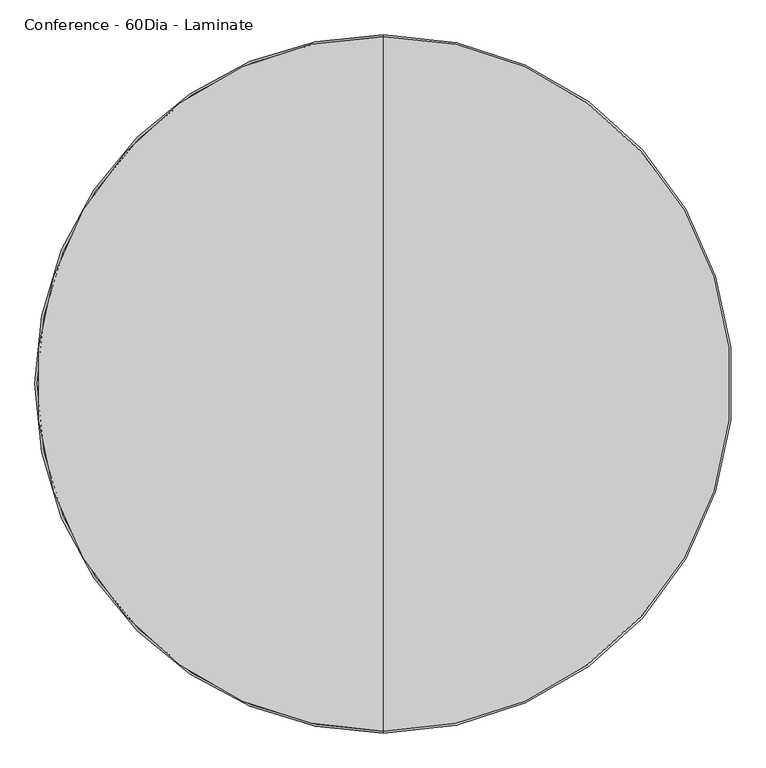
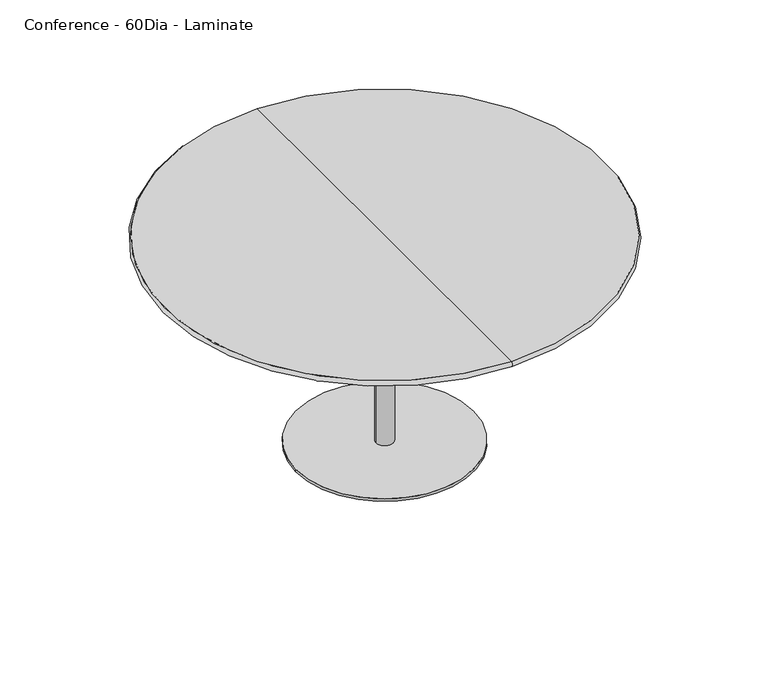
"""IFC4 building model written with IfcOpenShell, lengths in millimetres: furniture geometry, Steelcase Coalesse - Enea - Table - Single Base : Conference - 60Dia - Laminate."""

from ifc_helpers import new_model, si_unit, point, frame, frame_2d, origin, origin_with_axes, place, context, project, spatial, circle_curve, ellipse_curve, trimmed, segment, composite_curve, outline, extrude, source, transform, mapped, element, save
from ifc_brep_helpers import plane_surface, revolved_surface, advanced_brep


def conference_60dia_laminate_2bc6436f(model_context):
    return source(origin(), model_context, "Body", "SolidModel", [
        extrude(outline(composite_curve([segment(trimmed(circle_curve(frame_2d((537.718, -284.0746893)), 25.4), [point((512.318, -284.0746893))], [point((563.118, -284.0746893))], False, "CARTESIAN"), True, "CONTINUOUS"), segment(trimmed(circle_curve(frame_2d((537.718, -284.0746893)), 25.4), [point((563.118, -284.0746893))], [point((512.318, -284.0746893))], False, "CARTESIAN"), True, "CONTINUOUS")], self_intersect=False)), origin_with_axes(), (0.0, 0.0, 1.0), 6.35),
        extrude(outline(composite_curve([segment(trimmed(circle_curve(frame_2d((791.3613107, -537.3772238)), 25.4), [point((765.9613107, -537.3772238))], [point((816.7613107, -537.3772238))], False, "CARTESIAN"), True, "CONTINUOUS"), segment(trimmed(circle_curve(frame_2d((791.3613107, -537.3772238)), 25.4), [point((816.7613107, -537.3772238))], [point((765.9613107, -537.3772238))], False, "CARTESIAN"), True, "CONTINUOUS")], self_intersect=False)), origin_with_axes(), (0.0, 0.0, 1.0), 6.35),
        extrude(outline(composite_curve([segment(trimmed(circle_curve(frame_2d((284.0746893, -537.3772238)), 25.4), [point((258.6746893, -537.3772238))], [point((309.4746893, -537.3772238))], False, "CARTESIAN"), True, "CONTINUOUS"), segment(trimmed(circle_curve(frame_2d((284.0746893, -537.3772238)), 25.4), [point((309.4746893, -537.3772238))], [point((258.6746893, -537.3772238))], False, "CARTESIAN"), True, "CONTINUOUS")], self_intersect=False)), origin_with_axes(), (0.0, 0.0, 1.0), 6.35),
        extrude(outline(composite_curve([segment(trimmed(circle_curve(frame_2d((537.718, -790.6797584)), 25.4), [point((512.318, -790.6797584))], [point((563.118, -790.6797584))], False, "CARTESIAN"), True, "CONTINUOUS"), segment(trimmed(circle_curve(frame_2d((537.718, -790.6797584)), 25.4), [point((563.118, -790.6797584))], [point((512.318, -790.6797584))], False, "CARTESIAN"), True, "CONTINUOUS")], self_intersect=False)), origin_with_axes(), (0.0, 0.0, 1.0), 6.35),
        advanced_brep(
        [(537.718, -1295.4075871, 762.0), (537.718, 219.9715871, 762.0), (537.718, -537.718, 762.0), (537.718, -1295.4075871, 742.95), (537.718, 219.9715871, 742.95), (537.718, -537.718, 742.95)],
        [
            (0, 1, circle_curve(frame((537.718, -537.718, 762.0), z_axis=(0.0, 0.0, 1.0), x_axis=(0.0, 1.0, 0.0)), 757.6895871)),
            (1, 2),
            (2, 0),
            (1, 0, circle_curve(frame((537.718, -537.718, 762.0), z_axis=(0.0, 0.0, 1.0), x_axis=(0.0, 1.0, 0.0)), 757.6895871)),
            (3, 4, circle_curve(frame((537.718, -537.718, 742.95), z_axis=(0.0, 0.0, 1.0), x_axis=(0.0, 1.0, 0.0)), 757.6895871)),
            (4, 1, circle_curve(frame((537.718, 211.6031554, 752.475), z_axis=(1.0, 0.0, 0.0), x_axis=(0.0, -1.0, 0.0)), 12.6789697)),
            (0, 3, circle_curve(frame((537.718, -1287.0391554, 752.475), z_axis=(1.0, 0.0, 0.0), x_axis=(0.0, 1.0, 0.0)), 12.6789697)),
            (4, 3, circle_curve(frame((537.718, -537.718, 742.95), z_axis=(0.0, 0.0, 1.0), x_axis=(0.0, 1.0, 0.0)), 757.6895871)),
            (5, 4),
            (3, 5),
        ],
        [
            plane_surface(frame((537.718, -537.718, 762.0), z_axis=(0.0, 0.0, 1.0), x_axis=(0.0, 1.0, 0.0))),
            revolved_surface(trimmed(ellipse_curve(frame((537.718, 211.6031554, 752.475), z_axis=(-1.0, 0.0, 0.0), x_axis=(0.0, -1.0, 0.0)), 12.6789697, 12.6789697), [point((537.718, 219.9715871, 762.0))], [point((537.718, 219.9715871, 742.95))], True, "CARTESIAN"), (537.718, -537.718, 803.5678651), (0.0, 0.0, -1.0)),
            plane_surface(frame((537.718, -537.718, 742.95), z_axis=(0.0, 0.0, -1.0), x_axis=(0.0, 1.0, 0.0))),
        ],
        [
            (0, [[1, 2, 3]]),
            (0, [[4, -3, -2]]),
            (1, [[5, 6, -1, 7]]),
            (1, [[8, -7, -4, -6]]),
            (2, [[9, -5, 10]]),
            (2, [[-10, -8, -9]]),
        ],
    ),
        extrude(outline(composite_curve([segment(trimmed(circle_curve(frame_2d((537.718, -537.718)), 304.8), [point((842.518, -537.718))], [point((232.918, -537.718))], False, "CARTESIAN"), True, "CONTINUOUS"), segment(trimmed(circle_curve(frame_2d((537.718, -537.718)), 304.8), [point((232.918, -537.718))], [point((842.518, -537.718))], False, "CARTESIAN"), True, "CONTINUOUS")], self_intersect=False)), frame((0.0, 0.0, 6.35), z_axis=(0.0, 0.0, 1.0), x_axis=(1.0, 0.0, 0.0)), (0.0, 0.0, 1.0), 9.525),
        extrude(outline(composite_curve([segment(trimmed(circle_curve(frame_2d((537.7182907, -537.7179273)), 30.0214725), [point((567.7397632, -537.7179273))], [point((507.6968182, -537.7179273))], False, "CARTESIAN"), True, "CONTINUOUS"), segment(trimmed(circle_curve(frame_2d((537.7182907, -537.7179273)), 30.0214725), [point((507.6968182, -537.7179273))], [point((567.7397632, -537.7179273))], False, "CARTESIAN"), True, "CONTINUOUS")], self_intersect=False)), frame((0.0, 0.0, 15.875), z_axis=(0.0, 0.0, 1.0), x_axis=(1.0, 0.0, 0.0)), (0.0, 0.0, 1.0), 727.075),
    ])


if __name__ == "__main__":
    model = new_model("IFC4")
    model_context = context("Model", 3, world=origin())
    ifc_project = project(units=[si_unit("LENGTHUNIT", "METRE", prefix="MILLI")], contexts=[model_context])
    site = spatial("IfcSite", under=ifc_project)
    building = spatial("IfcBuilding", under=site)
    placement = place(None, origin())
    conference_60dia_laminate_shape = conference_60dia_laminate_2bc6436f(model_context)
    element("IfcFurniture", 1, ObjectType="Steelcase Coalesse - Enea - Table - Single Base : Conference - 60Dia - Laminate", at=placement, inside=building, context=model_context, shape_type="MappedRepresentation", body=[
        mapped(conference_60dia_laminate_shape, transform((0.0, 0.0, 0.0), x_axis=(1.0, 0.0, 0.0), y_axis=(0.0, 1.0, 0.0), z_axis=(0.0, 0.0, 1.0))),
    ])
    save(model, "model.ifc")
